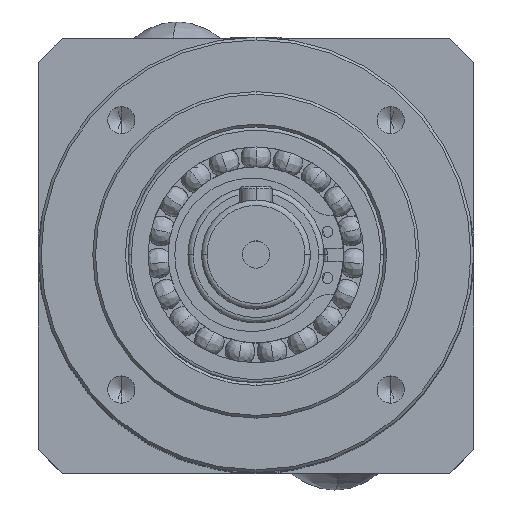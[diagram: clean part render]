
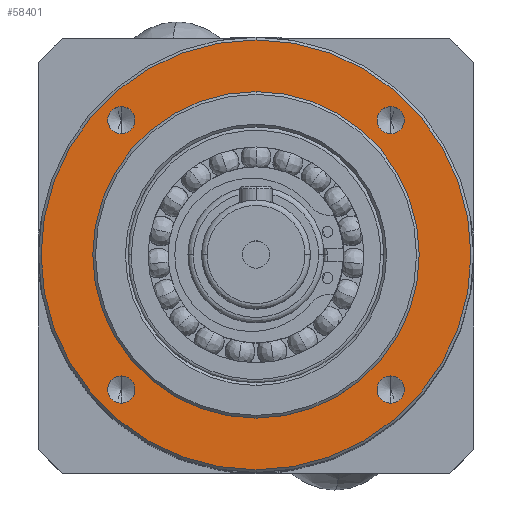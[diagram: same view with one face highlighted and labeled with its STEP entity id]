
A CAD part, top view. The second image highlights one B-rep face of the part: STEP entity #58401.
In plain terms, the highlighted planar face has unit normal (0, 0, 1) as drawn and (-1, 0, 0) by its records, which use the part's own axes.
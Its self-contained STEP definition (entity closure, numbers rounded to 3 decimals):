
#470 = AXIS2_PLACEMENT_3D ( 'NONE', #47467, #14514, #53040 ) ;
#1180 = VERTEX_POINT ( 'NONE', #23746 ) ;
#2049 = CARTESIAN_POINT ( 'NONE',  ( 3., -24.749, -22.249 ) ) ;
#2516 = AXIS2_PLACEMENT_3D ( 'NONE', #52040, #61706, #63131 ) ;
#2727 = FACE_OUTER_BOUND ( 'NONE', #42979, .T. ) ;
#3864 = VERTEX_POINT ( 'NONE', #63081 ) ;
#3948 = VERTEX_POINT ( 'NONE', #2049 ) ;
#3955 = EDGE_LOOP ( 'NONE', ( #57677, #55946 ) ) ;
#4667 = ORIENTED_EDGE ( 'NONE', *, *, #51072, .F. ) ;
#5315 = EDGE_CURVE ( 'NONE', #3948, #3864, #12221, .T. ) ;
#7654 = EDGE_CURVE ( 'NONE', #61443, #62134, #7825, .T. ) ;
#7663 = EDGE_CURVE ( 'NONE', #36056, #31741, #49961, .T. ) ;
#7825 = CIRCLE ( 'NONE', #26010, 2.5 ) ;
#8419 = CARTESIAN_POINT ( 'NONE',  ( 3., -24.749, -24.749 ) ) ;
#10488 = ORIENTED_EDGE ( 'NONE', *, *, #61629, .F. ) ;
#10902 = AXIS2_PLACEMENT_3D ( 'NONE', #58500, #25402, #64096 ) ;
#12221 = CIRCLE ( 'NONE', #23174, 2.5 ) ;
#12375 = VERTEX_POINT ( 'NONE', #45536 ) ;
#12494 = ORIENTED_EDGE ( 'NONE', *, *, #42119, .F. ) ;
#12636 = DIRECTION ( 'NONE',  ( -1., 0., 0. ) ) ;
#13914 = DIRECTION ( 'NONE',  ( 0., 0., 1. ) ) ;
#14000 = AXIS2_PLACEMENT_3D ( 'NONE', #48953, #15957, #54505 ) ;
#14514 = DIRECTION ( 'NONE',  ( -1., 0., 0. ) ) ;
#15957 = DIRECTION ( 'NONE',  ( -1., 0., 0. ) ) ;
#16355 = DIRECTION ( 'NONE',  ( -1., 0., 0. ) ) ;
#17224 = FACE_BOUND ( 'NONE', #53012, .T. ) ;
#17233 = EDGE_CURVE ( 'NONE', #1180, #55896, #27634, .T. ) ;
#17258 = CARTESIAN_POINT ( 'NONE',  ( 3., 24.749, 27.249 ) ) ;
#17271 = DIRECTION ( 'NONE',  ( -1., 0., 0. ) ) ;
#17450 = CARTESIAN_POINT ( 'NONE',  ( 3., -24.749, -24.749 ) ) ;
#17458 = DIRECTION ( 'NONE',  ( -1., 0., 0. ) ) ;
#17549 = DIRECTION ( 'NONE',  ( 0., 0., 1. ) ) ;
#21291 = ORIENTED_EDGE ( 'NONE', *, *, #7663, .F. ) ;
#21764 = ORIENTED_EDGE ( 'NONE', *, *, #55719, .F. ) ;
#22504 = CARTESIAN_POINT ( 'NONE',  ( 3., -24.749, 24.749 ) ) ;
#22661 = DIRECTION ( 'NONE',  ( -1., 0., 0. ) ) ;
#23174 = AXIS2_PLACEMENT_3D ( 'NONE', #17450, #17458, #17549 ) ;
#23746 = CARTESIAN_POINT ( 'NONE',  ( 3., 0., -39.5 ) ) ;
#23845 = DIRECTION ( 'NONE',  ( 0., 0., 1. ) ) ;
#24670 = CIRCLE ( 'NONE', #55592, 2.5 ) ;
#24755 = VERTEX_POINT ( 'NONE', #38714 ) ;
#25402 = DIRECTION ( 'NONE',  ( -1., 0., 0. ) ) ;
#26010 = AXIS2_PLACEMENT_3D ( 'NONE', #62774, #54975, #23845 ) ;
#26014 = AXIS2_PLACEMENT_3D ( 'NONE', #22504, #61175, #28055 ) ;
#27328 = CARTESIAN_POINT ( 'NONE',  ( 3., 24.749, -24.749 ) ) ;
#27530 = CARTESIAN_POINT ( 'NONE',  ( 3., 0., 30. ) ) ;
#27532 = ORIENTED_EDGE ( 'NONE', *, *, #7654, .F. ) ;
#27634 = CIRCLE ( 'NONE', #14000, 39.5 ) ;
#28055 = DIRECTION ( 'NONE',  ( 0., 0., 1. ) ) ;
#28215 = ORIENTED_EDGE ( 'NONE', *, *, #49690, .F. ) ;
#28854 = CIRCLE ( 'NONE', #26014, 2.5 ) ;
#28868 = AXIS2_PLACEMENT_3D ( 'NONE', #50310, #17271, #55849 ) ;
#29614 = DIRECTION ( 'NONE',  ( -1., 0., 0. ) ) ;
#29618 = EDGE_CURVE ( 'NONE', #12375, #40968, #65587, .T. ) ;
#29723 = AXIS2_PLACEMENT_3D ( 'NONE', #27328, #29614, #35192 ) ;
#30300 = CIRCLE ( 'NONE', #33859, 39.5 ) ;
#31741 = VERTEX_POINT ( 'NONE', #50599 ) ;
#31817 = FACE_BOUND ( 'NONE', #57833, .T. ) ;
#33581 = FACE_BOUND ( 'NONE', #58647, .T. ) ;
#33859 = AXIS2_PLACEMENT_3D ( 'NONE', #55762, #22661, #61329 ) ;
#35192 = DIRECTION ( 'NONE',  ( 0., 0., 1. ) ) ;
#36056 = VERTEX_POINT ( 'NONE', #36497 ) ;
#36497 = CARTESIAN_POINT ( 'NONE',  ( 3., 24.749, -27.249 ) ) ;
#38714 = CARTESIAN_POINT ( 'NONE',  ( 3., -24.749, 27.249 ) ) ;
#39936 = ORIENTED_EDGE ( 'NONE', *, *, #5315, .F. ) ;
#40968 = VERTEX_POINT ( 'NONE', #27530 ) ;
#42119 = EDGE_CURVE ( 'NONE', #31741, #36056, #56232, .T. ) ;
#42632 = AXIS2_PLACEMENT_3D ( 'NONE', #45578, #12636, #51147 ) ;
#42979 = EDGE_LOOP ( 'NONE', ( #56770, #50241 ) ) ;
#45536 = CARTESIAN_POINT ( 'NONE',  ( 3., 0., -30. ) ) ;
#45578 = CARTESIAN_POINT ( 'NONE',  ( 3., 24.749, 24.749 ) ) ;
#46433 = CARTESIAN_POINT ( 'NONE',  ( 3., -24.749, 22.249 ) ) ;
#46548 = FACE_BOUND ( 'NONE', #70157, .T. ) ;
#46868 = DIRECTION ( 'NONE',  ( -1., 0., 0. ) ) ;
#47467 = CARTESIAN_POINT ( 'NONE',  ( 3., 0., 0. ) ) ;
#48953 = CARTESIAN_POINT ( 'NONE',  ( 3., 0., 0. ) ) ;
#49371 = CARTESIAN_POINT ( 'NONE',  ( 3., -24.749, 24.749 ) ) ;
#49690 = EDGE_CURVE ( 'NONE', #62134, #61443, #63456, .T. ) ;
#49961 = CIRCLE ( 'NONE', #29723, 2.5 ) ;
#50241 = ORIENTED_EDGE ( 'NONE', *, *, #69112, .T. ) ;
#50310 = CARTESIAN_POINT ( 'NONE',  ( 3., 0., 0. ) ) ;
#50599 = CARTESIAN_POINT ( 'NONE',  ( 3., 24.749, -22.249 ) ) ;
#51072 = EDGE_CURVE ( 'NONE', #24755, #51899, #28854, .T. ) ;
#51147 = DIRECTION ( 'NONE',  ( 0., 0., 1. ) ) ;
#51548 = CARTESIAN_POINT ( 'NONE',  ( 3., 0., 39.5 ) ) ;
#51899 = VERTEX_POINT ( 'NONE', #46433 ) ;
#52040 = CARTESIAN_POINT ( 'NONE',  ( 3., -39.974, 39.974 ) ) ;
#52070 = CIRCLE ( 'NONE', #28868, 30. ) ;
#53012 = EDGE_LOOP ( 'NONE', ( #12494, #21291 ) ) ;
#53040 = DIRECTION ( 'NONE',  ( 0., 0., 1. ) ) ;
#53774 = CARTESIAN_POINT ( 'NONE',  ( 3., 24.749, 22.249 ) ) ;
#53795 = EDGE_CURVE ( 'NONE', #40968, #12375, #52070, .T. ) ;
#54505 = DIRECTION ( 'NONE',  ( 0., 0., -1. ) ) ;
#54916 = DIRECTION ( 'NONE',  ( 0., 0., 1. ) ) ;
#54975 = DIRECTION ( 'NONE',  ( -1., 0., 0. ) ) ;
#55592 = AXIS2_PLACEMENT_3D ( 'NONE', #8419, #46868, #13914 ) ;
#55719 = EDGE_CURVE ( 'NONE', #51899, #24755, #56240, .T. ) ;
#55762 = CARTESIAN_POINT ( 'NONE',  ( 3., 0., 0. ) ) ;
#55849 = DIRECTION ( 'NONE',  ( 0., 0., 1. ) ) ;
#55896 = VERTEX_POINT ( 'NONE', #51548 ) ;
#55946 = ORIENTED_EDGE ( 'NONE', *, *, #29618, .F. ) ;
#56232 = CIRCLE ( 'NONE', #10902, 2.5 ) ;
#56240 = CIRCLE ( 'NONE', #68782, 2.5 ) ;
#56770 = ORIENTED_EDGE ( 'NONE', *, *, #17233, .T. ) ;
#57540 = PLANE ( 'NONE',  #2516 ) ;
#57677 = ORIENTED_EDGE ( 'NONE', *, *, #53795, .F. ) ;
#57833 = EDGE_LOOP ( 'NONE', ( #39936, #10488 ) ) ;
#58401 = ADVANCED_FACE ( 'NONE', ( #61255, #46548, #17224, #31817, #33581, #2727 ), #57540, .F. ) ;
#58500 = CARTESIAN_POINT ( 'NONE',  ( 3., 24.749, -24.749 ) ) ;
#58647 = EDGE_LOOP ( 'NONE', ( #4667, #21764 ) ) ;
#61175 = DIRECTION ( 'NONE',  ( -1., 0., 0. ) ) ;
#61255 = FACE_BOUND ( 'NONE', #3955, .T. ) ;
#61329 = DIRECTION ( 'NONE',  ( 0., 0., -1. ) ) ;
#61443 = VERTEX_POINT ( 'NONE', #17258 ) ;
#61629 = EDGE_CURVE ( 'NONE', #3864, #3948, #24670, .T. ) ;
#61706 = DIRECTION ( 'NONE',  ( 1., 0., 0. ) ) ;
#62134 = VERTEX_POINT ( 'NONE', #53774 ) ;
#62774 = CARTESIAN_POINT ( 'NONE',  ( 3., 24.749, 24.749 ) ) ;
#63081 = CARTESIAN_POINT ( 'NONE',  ( 3., -24.749, -27.249 ) ) ;
#63131 = DIRECTION ( 'NONE',  ( 0., 0., -1. ) ) ;
#63456 = CIRCLE ( 'NONE', #42632, 2.5 ) ;
#64096 = DIRECTION ( 'NONE',  ( 0., 0., 1. ) ) ;
#65587 = CIRCLE ( 'NONE', #470, 30. ) ;
#68782 = AXIS2_PLACEMENT_3D ( 'NONE', #49371, #16355, #54916 ) ;
#69112 = EDGE_CURVE ( 'NONE', #55896, #1180, #30300, .T. ) ;
#70157 = EDGE_LOOP ( 'NONE', ( #27532, #28215 ) ) ;
